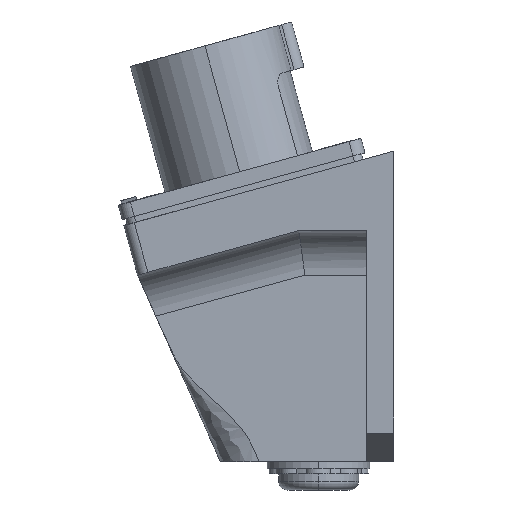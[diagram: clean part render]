
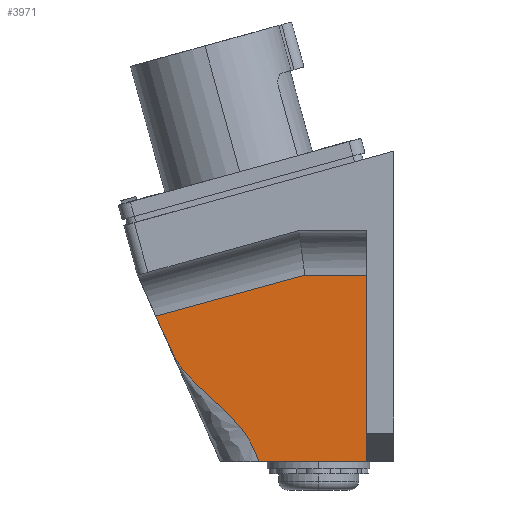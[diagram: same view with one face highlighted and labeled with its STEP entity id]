
A CAD part, left-side view. The second image highlights one B-rep face of the part: STEP entity #3971.
In plain terms, the highlighted planar face has unit normal (-1, 0, 0).
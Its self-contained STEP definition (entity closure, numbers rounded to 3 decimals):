
#410 = VECTOR ( 'NONE', #8220, 1000. ) ;
#460 = VECTOR ( 'NONE', #8447, 1000. ) ;
#461 = VECTOR ( 'NONE', #8450, 1000. ) ;
#462 = VECTOR ( 'NONE', #8453, 1000. ) ;
#3073 = ORIENTED_EDGE ( 'NONE', *, *, #3461, .T. ) ;
#3074 = ORIENTED_EDGE ( 'NONE', *, *, #3405, .T. ) ;
#3075 = ORIENTED_EDGE ( 'NONE', *, *, #3460, .T. ) ;
#3076 = ORIENTED_EDGE ( 'NONE', *, *, #3462, .F. ) ;
#3078 = ORIENTED_EDGE ( 'NONE', *, *, #3463, .T. ) ;
#3405 = EDGE_CURVE ( 'NONE', #6942, #7003, #8218, .T. ) ;
#3460 = EDGE_CURVE ( 'NONE', #6944, #6942, #8054, .T. ) ;
#3461 = EDGE_CURVE ( 'NONE', #7012, #6944, #8445, .T. ) ;
#3462 = EDGE_CURVE ( 'NONE', #7009, #7003, #8448, .T. ) ;
#3463 = EDGE_CURVE ( 'NONE', #7009, #7012, #8451, .T. ) ;
#3971 = ADVANCED_FACE ( 'NONE', ( #6111 ), #10159, .F. ) ;
#5870 = EDGE_LOOP ( 'NONE', ( #3073, #3075, #3074, #3076, #3078 ) ) ;
#6111 = FACE_OUTER_BOUND ( 'NONE', #5870, .T. ) ;
#6116 = AXIS2_PLACEMENT_3D ( 'NONE', #10160, #10161, #10162 ) ;
#6942 = VERTEX_POINT ( 'NONE', #12583 ) ;
#6944 = VERTEX_POINT ( 'NONE', #12585 ) ;
#7003 = VERTEX_POINT ( 'NONE', #12635 ) ;
#7009 = VERTEX_POINT ( 'NONE', #12641 ) ;
#7012 = VERTEX_POINT ( 'NONE', #12644 ) ;
#8054 = B_SPLINE_CURVE_WITH_KNOTS ( 'NONE', 3,
 ( #8434, #8435, #8436, #8437, #8438, #8439, #8440, #8441, #8442, #8443 ),
 .UNSPECIFIED., .F., .F.,
 ( 4, 3, 3, 4 ),
 ( -0.045, -0.033, 0., 0.004 ),
 .UNSPECIFIED. ) ;
#8218 = LINE ( 'NONE', #8219, #410 ) ;
#8219 = CARTESIAN_POINT ( 'NONE',  ( -23., 0., -43.6 ) ) ;
#8220 = DIRECTION ( 'NONE',  ( 0., -1., 0. ) ) ;
#8434 = CARTESIAN_POINT ( 'NONE',  ( -23., 66.826, -2.784 ) ) ;
#8435 = CARTESIAN_POINT ( 'NONE',  ( -23., 65.285, -6.172 ) ) ;
#8436 = CARTESIAN_POINT ( 'NONE',  ( -23., 63.744, -9.56 ) ) ;
#8437 = CARTESIAN_POINT ( 'NONE',  ( -23., 62.203, -12.948 ) ) ;
#8438 = CARTESIAN_POINT ( 'NONE',  ( -23., 57.58, -23.111 ) ) ;
#8439 = CARTESIAN_POINT ( 'NONE',  ( -23., 44.092, -29.337 ) ) ;
#8440 = CARTESIAN_POINT ( 'NONE',  ( -23., 39.561, -39.541 ) ) ;
#8441 = CARTESIAN_POINT ( 'NONE',  ( -23., 38.96, -40.894 ) ) ;
#8442 = CARTESIAN_POINT ( 'NONE',  ( -23., 38.359, -42.247 ) ) ;
#8443 = CARTESIAN_POINT ( 'NONE',  ( -23., 37.758, -43.6 ) ) ;
#8445 = LINE ( 'NONE', #8446, #460 ) ;
#8446 = CARTESIAN_POINT ( 'NONE',  ( -23., 68.637, -3.283 ) ) ;
#8447 = DIRECTION ( 'NONE',  ( 0., 0.964, -0.266 ) ) ;
#8448 = LINE ( 'NONE', #8449, #461 ) ;
#8449 = CARTESIAN_POINT ( 'NONE',  ( -23., 7.5, -43.6 ) ) ;
#8450 = DIRECTION ( 'NONE',  ( 0., 0., -1. ) ) ;
#8451 = LINE ( 'NONE', #8452, #462 ) ;
#8452 = CARTESIAN_POINT ( 'NONE',  ( -23., 26.644, 8.749 ) ) ;
#8453 = DIRECTION ( 'NONE',  ( 0., 1., 0. ) ) ;
#10159 = PLANE ( 'NONE',  #6116 ) ;
#10160 = CARTESIAN_POINT ( 'NONE',  ( -23., 8.162, -45.848 ) ) ;
#10161 = DIRECTION ( 'NONE',  ( 1., 0., 0. ) ) ;
#10162 = DIRECTION ( 'NONE',  ( 0., 0., 1. ) ) ;
#12583 = CARTESIAN_POINT ( 'NONE',  ( -23., 37.758, -43.6 ) ) ;
#12585 = CARTESIAN_POINT ( 'NONE',  ( -23., 66.826, -2.784 ) ) ;
#12635 = CARTESIAN_POINT ( 'NONE',  ( -23., 7.5, -43.6 ) ) ;
#12641 = CARTESIAN_POINT ( 'NONE',  ( -23., 7.5, 8.749 ) ) ;
#12644 = CARTESIAN_POINT ( 'NONE',  ( -23., 24.954, 8.749 ) ) ;
